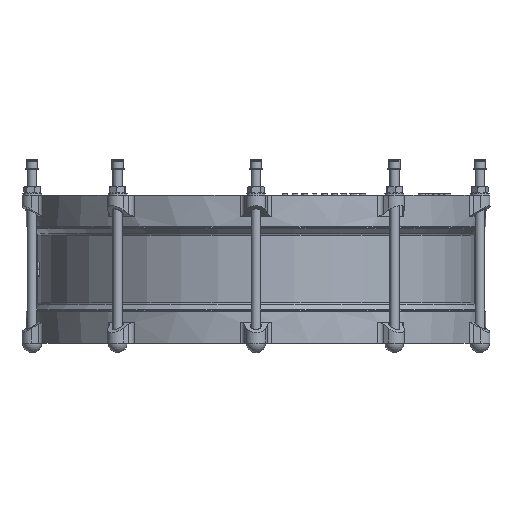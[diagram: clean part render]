
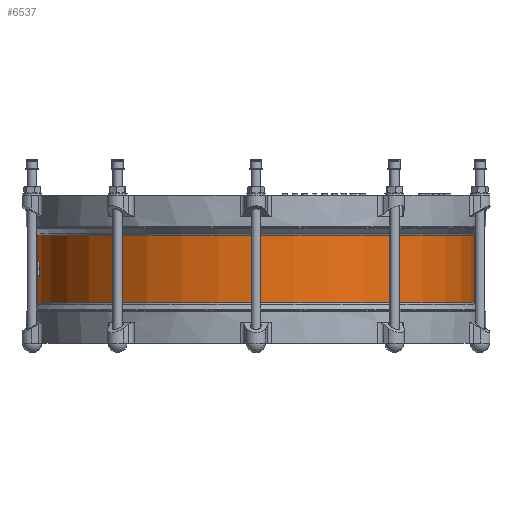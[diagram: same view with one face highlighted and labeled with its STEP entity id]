
A CAD part, left-side view. The second image highlights one B-rep face of the part: STEP entity #6537.
In plain terms, the highlighted cylindrical face has radius 322 mm (diameter 644 mm), a full revolution.
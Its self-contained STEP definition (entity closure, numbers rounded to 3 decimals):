
#6537=ADVANCED_FACE('',(#11987,#11989),#11991,.T.);
#11987=FACE_OUTER_BOUND('',#11988,.T.);
#11988=EDGE_LOOP('',(#18015));
#11989=FACE_OUTER_BOUND('',#11990,.T.);
#11990=EDGE_LOOP('',(#18016));
#11991=CYLINDRICAL_SURFACE('',#11992,322.);
#11992=AXIS2_PLACEMENT_3D('',#11993,#11994,#11995);
#11993=CARTESIAN_POINT('',(0.,0.,51.3));
#11994=DIRECTION('',(0.,0.,-1.));
#11995=DIRECTION('',(0.,1.,0.));
#18015=ORIENTED_EDGE('',*,*,#20535,.T.);
#18016=ORIENTED_EDGE('',*,*,#20536,.F.);
#20535=EDGE_CURVE('',#24091,#24091,#24092,.T.);
#20536=EDGE_CURVE('',#24093,#24093,#24094,.T.);
#24091=VERTEX_POINT('',#39836);
#24092=CIRCLE('',#39837,322.);
#24093=VERTEX_POINT('',#39841);
#24094=CIRCLE('',#39842,322.);
#39836=CARTESIAN_POINT('',(0.,322.,49.851));
#39837=AXIS2_PLACEMENT_3D('',#39838,#39839,#39840);
#39838=CARTESIAN_POINT('',(0.,0.,49.851));
#39839=DIRECTION('',(0.,0.,-1.));
#39840=DIRECTION('',(0.,1.,0.));
#39841=CARTESIAN_POINT('',(0.,322.,-49.851));
#39842=AXIS2_PLACEMENT_3D('',#39843,#39844,#39845);
#39843=CARTESIAN_POINT('',(0.,0.,-49.851));
#39844=DIRECTION('',(0.,0.,-1.));
#39845=DIRECTION('',(0.,1.,0.));
